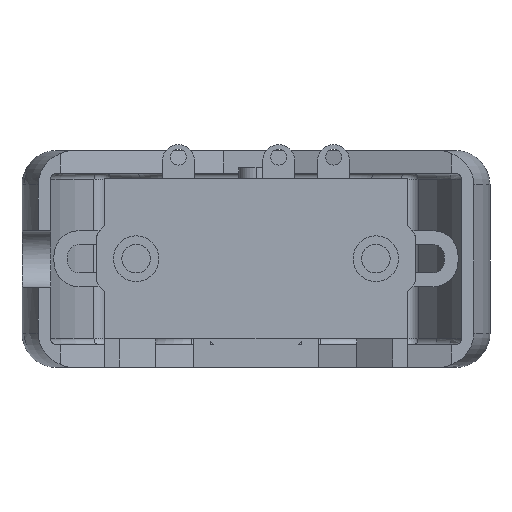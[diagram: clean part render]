
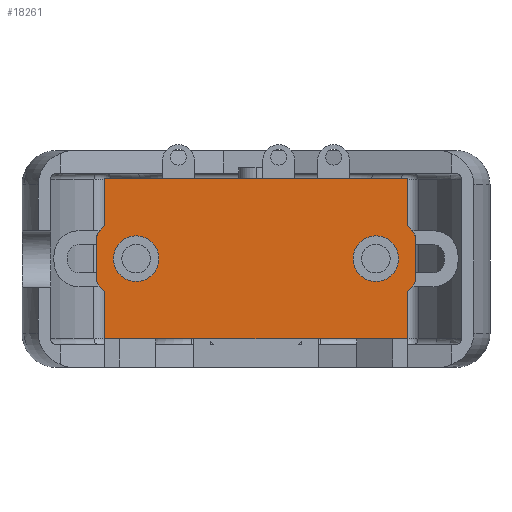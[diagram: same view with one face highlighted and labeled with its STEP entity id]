
A CAD part, front view. The second image highlights one B-rep face of the part: STEP entity #18261.
In plain terms, the highlighted planar face has unit normal (0, -1, 0).
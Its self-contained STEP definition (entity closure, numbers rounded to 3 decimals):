
#51 = DIRECTION ( 'NONE',  ( 0., 0., -1. ) ) ;
#62 = CARTESIAN_POINT ( 'NONE',  ( 14., 0., 1.936 ) ) ;
#275 = ORIENTED_EDGE ( 'NONE', *, *, #20007, .F. ) ;
#347 = DIRECTION ( 'NONE',  ( 0., 0., -1. ) ) ;
#710 = VERTEX_POINT ( 'NONE', #18553 ) ;
#763 = VECTOR ( 'NONE', #51, 1000. ) ;
#870 = ORIENTED_EDGE ( 'NONE', *, *, #9537, .T. ) ;
#1061 = AXIS2_PLACEMENT_3D ( 'NONE', #18074, #8424, #10096 ) ;
#1241 = ORIENTED_EDGE ( 'NONE', *, *, #10759, .F. ) ;
#1663 = CARTESIAN_POINT ( 'NONE',  ( -13.25, 0., -2.905 ) ) ;
#1726 = DIRECTION ( 'NONE',  ( 1., 0., 0. ) ) ;
#1798 = ORIENTED_EDGE ( 'NONE', *, *, #17781, .F. ) ;
#1881 = VECTOR ( 'NONE', #6948, 1000. ) ;
#2338 = CARTESIAN_POINT ( 'NONE',  ( 13.25, 0., -7. ) ) ;
#2356 = AXIS2_PLACEMENT_3D ( 'NONE', #3466, #9943, #347 ) ;
#2684 = CIRCLE ( 'NONE', #13442, 4. ) ;
#2980 = CARTESIAN_POINT ( 'NONE',  ( 14., 0., -1.936 ) ) ;
#3170 = LINE ( 'NONE', #19353, #20592 ) ;
#3377 = EDGE_CURVE ( 'NONE', #12605, #4271, #13975, .T. ) ;
#3388 = ORIENTED_EDGE ( 'NONE', *, *, #10912, .T. ) ;
#3447 = CIRCLE ( 'NONE', #18311, 2. ) ;
#3451 = CARTESIAN_POINT ( 'NONE',  ( -14., 0., 1.936 ) ) ;
#3466 = CARTESIAN_POINT ( 'NONE',  ( 10.5, 0., 0. ) ) ;
#3602 = VERTEX_POINT ( 'NONE', #18570 ) ;
#3648 = AXIS2_PLACEMENT_3D ( 'NONE', #9231, #20540, #10852 ) ;
#3678 = AXIS2_PLACEMENT_3D ( 'NONE', #7788, #18784, #4564 ) ;
#3792 = EDGE_CURVE ( 'NONE', #3602, #12605, #11682, .T. ) ;
#3892 = CARTESIAN_POINT ( 'NONE',  ( -14., 0., 1.936 ) ) ;
#3993 = AXIS2_PLACEMENT_3D ( 'NONE', #15313, #18437, #10570 ) ;
#4271 = VERTEX_POINT ( 'NONE', #62 ) ;
#4564 = DIRECTION ( 'NONE',  ( 0., 0., 1. ) ) ;
#4979 = ORIENTED_EDGE ( 'NONE', *, *, #8640, .T. ) ;
#5048 = LINE ( 'NONE', #19108, #763 ) ;
#5307 = CIRCLE ( 'NONE', #1061, 2. ) ;
#5442 = CARTESIAN_POINT ( 'NONE',  ( -10.5, 0., 2. ) ) ;
#5457 = AXIS2_PLACEMENT_3D ( 'NONE', #16059, #12593, #9628 ) ;
#5604 = DIRECTION ( 'NONE',  ( 0., 0., -1. ) ) ;
#5766 = ORIENTED_EDGE ( 'NONE', *, *, #3792, .T. ) ;
#5769 = ORIENTED_EDGE ( 'NONE', *, *, #6007, .F. ) ;
#6007 = EDGE_CURVE ( 'NONE', #9002, #13624, #5307, .T. ) ;
#6340 = CARTESIAN_POINT ( 'NONE',  ( -10.5, 0., 0. ) ) ;
#6383 = VERTEX_POINT ( 'NONE', #3451 ) ;
#6520 = DIRECTION ( 'NONE',  ( 0., 0., -1. ) ) ;
#6540 = ORIENTED_EDGE ( 'NONE', *, *, #3377, .T. ) ;
#6725 = VERTEX_POINT ( 'NONE', #8803 ) ;
#6871 = ORIENTED_EDGE ( 'NONE', *, *, #11725, .F. ) ;
#6948 = DIRECTION ( 'NONE',  ( 0., 0., 1. ) ) ;
#7394 = ORIENTED_EDGE ( 'NONE', *, *, #17845, .F. ) ;
#7739 = DIRECTION ( 'NONE',  ( 0., 0., -1. ) ) ;
#7770 = VECTOR ( 'NONE', #7739, 1000. ) ;
#7788 = CARTESIAN_POINT ( 'NONE',  ( -13.25, 0., 7. ) ) ;
#7808 = CARTESIAN_POINT ( 'NONE',  ( 10.5, 0., -2. ) ) ;
#7841 = ORIENTED_EDGE ( 'NONE', *, *, #10181, .T. ) ;
#8067 = VECTOR ( 'NONE', #1726, 1000. ) ;
#8075 = CARTESIAN_POINT ( 'NONE',  ( -10.5, 0., 0. ) ) ;
#8332 = AXIS2_PLACEMENT_3D ( 'NONE', #9290, #18821, #12398 ) ;
#8423 = CIRCLE ( 'NONE', #5457, 2. ) ;
#8424 = DIRECTION ( 'NONE',  ( 0., -1., 0. ) ) ;
#8579 = VERTEX_POINT ( 'NONE', #19096 ) ;
#8640 = EDGE_CURVE ( 'NONE', #12133, #19636, #18914, .T. ) ;
#8803 = CARTESIAN_POINT ( 'NONE',  ( 13.25, 0., 2.905 ) ) ;
#9002 = VERTEX_POINT ( 'NONE', #20602 ) ;
#9117 = CARTESIAN_POINT ( 'NONE',  ( -13.25, 0., 7. ) ) ;
#9120 = CIRCLE ( 'NONE', #3648, 4. ) ;
#9123 = FACE_BOUND ( 'NONE', #12571, .T. ) ;
#9229 = CARTESIAN_POINT ( 'NONE',  ( -10.5, 0., -2. ) ) ;
#9231 = CARTESIAN_POINT ( 'NONE',  ( -10.5, 0., 0. ) ) ;
#9290 = CARTESIAN_POINT ( 'NONE',  ( 10.5, 0., 0. ) ) ;
#9381 = VECTOR ( 'NONE', #10948, 1000. ) ;
#9537 = EDGE_CURVE ( 'NONE', #14124, #710, #17884, .T. ) ;
#9557 = DIRECTION ( 'NONE',  ( 0., -1., 0. ) ) ;
#9603 = DIRECTION ( 'NONE',  ( 1., 0., 0. ) ) ;
#9628 = DIRECTION ( 'NONE',  ( 0., 0., -1. ) ) ;
#9678 = VECTOR ( 'NONE', #5604, 1000. ) ;
#9791 = VERTEX_POINT ( 'NONE', #9229 ) ;
#9943 = DIRECTION ( 'NONE',  ( 0., -1., 0. ) ) ;
#10096 = DIRECTION ( 'NONE',  ( 0., 0., -1. ) ) ;
#10181 = EDGE_CURVE ( 'NONE', #8579, #12133, #2684, .T. ) ;
#10552 = EDGE_CURVE ( 'NONE', #19636, #18572, #3170, .T. ) ;
#10570 = DIRECTION ( 'NONE',  ( 0., 0., -1. ) ) ;
#10751 = CARTESIAN_POINT ( 'NONE',  ( -13.25, 0., 7. ) ) ;
#10759 = EDGE_CURVE ( 'NONE', #9791, #11282, #19206, .T. ) ;
#10852 = DIRECTION ( 'NONE',  ( 0., 0., 1. ) ) ;
#10872 = EDGE_LOOP ( 'NONE', ( #16639, #5766, #6540, #3388, #1798, #275, #870, #17972, #16144, #7841, #4979, #13604 ) ) ;
#10898 = LINE ( 'NONE', #11237, #9381 ) ;
#10912 = EDGE_CURVE ( 'NONE', #4271, #6725, #13653, .T. ) ;
#10948 = DIRECTION ( 'NONE',  ( 0., 0., -1. ) ) ;
#11237 = CARTESIAN_POINT ( 'NONE',  ( 13.25, 0., 7. ) ) ;
#11240 = DIRECTION ( 'NONE',  ( 0., 0., 1. ) ) ;
#11282 = VERTEX_POINT ( 'NONE', #5442 ) ;
#11682 = CIRCLE ( 'NONE', #2356, 4. ) ;
#11725 = EDGE_CURVE ( 'NONE', #11282, #9791, #3447, .T. ) ;
#12133 = VERTEX_POINT ( 'NONE', #1663 ) ;
#12398 = DIRECTION ( 'NONE',  ( 0., 0., -1. ) ) ;
#12571 = EDGE_LOOP ( 'NONE', ( #7394, #5769 ) ) ;
#12593 = DIRECTION ( 'NONE',  ( 0., -1., 0. ) ) ;
#12605 = VERTEX_POINT ( 'NONE', #2980 ) ;
#12984 = EDGE_CURVE ( 'NONE', #6383, #8579, #15247, .T. ) ;
#13367 = LINE ( 'NONE', #17799, #8067 ) ;
#13442 = AXIS2_PLACEMENT_3D ( 'NONE', #6340, #9557, #11240 ) ;
#13489 = CARTESIAN_POINT ( 'NONE',  ( 14., 0., 1.936 ) ) ;
#13604 = ORIENTED_EDGE ( 'NONE', *, *, #10552, .T. ) ;
#13624 = VERTEX_POINT ( 'NONE', #7808 ) ;
#13653 = CIRCLE ( 'NONE', #8332, 4. ) ;
#13823 = EDGE_LOOP ( 'NONE', ( #1241, #6871 ) ) ;
#13975 = LINE ( 'NONE', #13489, #1881 ) ;
#14124 = VERTEX_POINT ( 'NONE', #9117 ) ;
#14623 = DIRECTION ( 'NONE',  ( 0., -1., 0. ) ) ;
#14634 = VECTOR ( 'NONE', #20519, 1000. ) ;
#14724 = EDGE_CURVE ( 'NONE', #710, #6383, #9120, .T. ) ;
#14957 = FACE_BOUND ( 'NONE', #13823, .T. ) ;
#15247 = LINE ( 'NONE', #3892, #9678 ) ;
#15313 = CARTESIAN_POINT ( 'NONE',  ( -10.5, 0., 0. ) ) ;
#16059 = CARTESIAN_POINT ( 'NONE',  ( 10.5, 0., 0. ) ) ;
#16144 = ORIENTED_EDGE ( 'NONE', *, *, #12984, .T. ) ;
#16234 = FACE_OUTER_BOUND ( 'NONE', #10872, .T. ) ;
#16639 = ORIENTED_EDGE ( 'NONE', *, *, #20468, .F. ) ;
#17415 = CARTESIAN_POINT ( 'NONE',  ( -13.25, 0., 7. ) ) ;
#17448 = PLANE ( 'NONE',  #3678 ) ;
#17781 = EDGE_CURVE ( 'NONE', #20177, #6725, #10898, .T. ) ;
#17799 = CARTESIAN_POINT ( 'NONE',  ( -13.25, 0., 7. ) ) ;
#17845 = EDGE_CURVE ( 'NONE', #13624, #9002, #8423, .T. ) ;
#17884 = LINE ( 'NONE', #17415, #7770 ) ;
#17972 = ORIENTED_EDGE ( 'NONE', *, *, #14724, .T. ) ;
#18074 = CARTESIAN_POINT ( 'NONE',  ( 10.5, 0., 0. ) ) ;
#18261 = ADVANCED_FACE ( 'NONE', ( #9123, #14957, #16234 ), #17448, .F. ) ;
#18311 = AXIS2_PLACEMENT_3D ( 'NONE', #8075, #14623, #6520 ) ;
#18437 = DIRECTION ( 'NONE',  ( 0., -1., 0. ) ) ;
#18553 = CARTESIAN_POINT ( 'NONE',  ( -13.25, 0., 2.905 ) ) ;
#18570 = CARTESIAN_POINT ( 'NONE',  ( 13.25, 0., -2.905 ) ) ;
#18572 = VERTEX_POINT ( 'NONE', #2338 ) ;
#18784 = DIRECTION ( 'NONE',  ( 0., 1., 0. ) ) ;
#18821 = DIRECTION ( 'NONE',  ( 0., -1., 0. ) ) ;
#18914 = LINE ( 'NONE', #10751, #14634 ) ;
#19096 = CARTESIAN_POINT ( 'NONE',  ( -14., 0., -1.936 ) ) ;
#19108 = CARTESIAN_POINT ( 'NONE',  ( 13.25, 0., 7. ) ) ;
#19206 = CIRCLE ( 'NONE', #3993, 2. ) ;
#19353 = CARTESIAN_POINT ( 'NONE',  ( -13.25, 0., -7. ) ) ;
#19636 = VERTEX_POINT ( 'NONE', #20471 ) ;
#19718 = CARTESIAN_POINT ( 'NONE',  ( 13.25, 0., 7. ) ) ;
#20007 = EDGE_CURVE ( 'NONE', #14124, #20177, #13367, .T. ) ;
#20177 = VERTEX_POINT ( 'NONE', #19718 ) ;
#20468 = EDGE_CURVE ( 'NONE', #3602, #18572, #5048, .T. ) ;
#20471 = CARTESIAN_POINT ( 'NONE',  ( -13.25, 0., -7. ) ) ;
#20519 = DIRECTION ( 'NONE',  ( 0., 0., -1. ) ) ;
#20540 = DIRECTION ( 'NONE',  ( 0., -1., 0. ) ) ;
#20592 = VECTOR ( 'NONE', #9603, 1000. ) ;
#20602 = CARTESIAN_POINT ( 'NONE',  ( 10.5, 0., 2. ) ) ;
